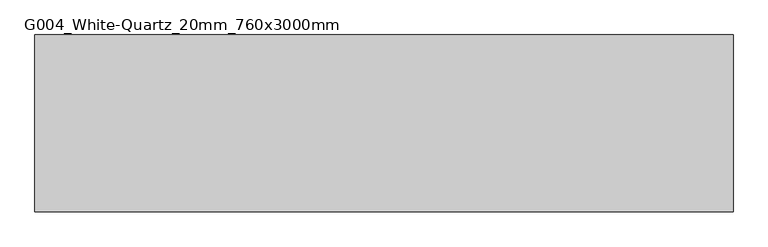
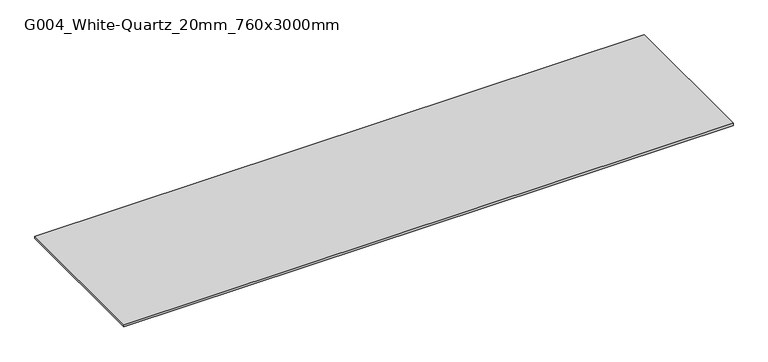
"""IFC4 building model written with IfcOpenShell, lengths in millimetres: proxy geometry, Kitchen_Counter-Tops_Indoor-Materials_HIMACS_Quartz : G004_White-Quartz_20mm_760x3000mm."""

import ifcopenshell
import ifcopenshell.guid

model = None  # the IFC model being written
_history = None  # IfcOwnerHistory: only IFC2X3 demands one
_inside = {}  # id of a spatial element -> (the spatial element, [elements in it])
_under = {}  # id of a project, library or spatial element -> (it, [spatial elements below it])
_declared = {}  # id of a project -> (the project, [libraries it declares])
_typed = {}  # id of a type object -> (the type object, [elements of that type])
_made_of = {}  # id of a material, layer set ... -> (it, [elements and type objects made of it])


def new_model(schema):
    """Start an empty IFC model of exactly this schema.

    Asked for "IFC4X3", IfcOpenShell would pick the latest addendum, in which some entities
    have other attributes; the version numbers below select the first issue.
    IFC2X3 requires an IfcOwnerHistory on every rooted entity: one is made here for all.
    """
    global model, _history
    if schema == "IFC4X3":
        model = ifcopenshell.file(schema_version=(4, 3, 0, 0))
    else:
        model = ifcopenshell.file(schema=schema)
    _inside.clear()
    _under.clear()
    _declared.clear()
    _typed.clear()
    _made_of.clear()
    _history = None
    if model.schema == "IFC2X3":
        org = make("IfcOrganization", Name="unknown")
        user = make(
            "IfcPersonAndOrganization",
            ThePerson=make("IfcPerson", FamilyName="unknown"),
            TheOrganization=org,
        )
        app = make(
            "IfcApplication",
            ApplicationDeveloper=org,
            Version="unknown",
            ApplicationFullName="unknown",
            ApplicationIdentifier="unknown",
        )
        _history = make(
            "IfcOwnerHistory",
            OwningUser=user,
            OwningApplication=app,
            ChangeAction="ADDED",
            CreationDate=0,
        )
    return model


def make(cls, **values):
    """One entity of the class cls with the attributes given. An attribute that is None is left unset."""
    return model.create_entity(
        cls, **{name: value for name, value in values.items() if value is not None}
    )


def rooted(cls, **values):
    """An entity with a GlobalId (a new one), such as an element, a storey or a relation."""
    return make(cls, GlobalId=ifcopenshell.guid.new(), OwnerHistory=_history, **values)


def si_unit(unit_type, name, prefix=None):
    """IfcSIUnit, for example si_unit("LENGTHUNIT", "METRE", prefix="MILLI")."""
    return make("IfcSIUnit", UnitType=unit_type, Prefix=prefix, Name=name)


def assignment(units):
    """IfcUnitAssignment: the units of a project."""
    return None if units is None else make("IfcUnitAssignment", Units=units)


def point(xyz):
    """IfcCartesianPoint."""
    return None if xyz is None else make("IfcCartesianPoint", Coordinates=xyz)


def direction(xyz):
    """IfcDirection."""
    return None if xyz is None else make("IfcDirection", DirectionRatios=xyz)


def frame(location, z_axis=None, x_axis=None):
    """IfcAxis2Placement3D, a coordinate frame: its origin and axes. An axis left out is left unset."""
    return make(
        "IfcAxis2Placement3D",
        Location=point(location),
        Axis=direction(z_axis),
        RefDirection=direction(x_axis),
    )


def origin():
    """The frame at (0, 0, 0) with its axes left unset."""
    return frame((0.0, 0.0, 0.0))


def origin_with_axes():
    """The frame at (0, 0, 0) with the z axis (0, 0, 1) and the x axis (1, 0, 0) written out."""
    return frame((0.0, 0.0, 0.0), z_axis=(0.0, 0.0, 1.0), x_axis=(1.0, 0.0, 0.0))


def place(relative_to, where):
    """IfcLocalPlacement: puts the frame where relative to a parent placement (None: the world)."""
    return make(
        "IfcLocalPlacement", PlacementRelTo=relative_to, RelativePlacement=where
    )


def context(
    kind, dimensions, precision=None, world=None, true_north=None, identifier=None
):
    """IfcGeometricRepresentationContext, for example the 3D "Model" context."""
    return make(
        "IfcGeometricRepresentationContext",
        ContextIdentifier=identifier,
        ContextType=kind,
        CoordinateSpaceDimension=dimensions,
        Precision=precision,
        WorldCoordinateSystem=world,
        TrueNorth=true_north,
    )


def project(units=None, contexts=None):
    """IfcProject with its units and contexts."""
    return rooted(
        "IfcProject",
        Name="project",
        RepresentationContexts=contexts,
        UnitsInContext=assignment(units),
    )


def spatial(cls, under=None, at=None, **own):
    """A site, building, storey or space (cls), placed at a placement, below another one or the project."""
    s = rooted(cls, ObjectPlacement=at, **own)
    if under is not None:
        _under.setdefault(under.id(), (under, []))[1].append(s)
    return s


def polyline(points):
    """IfcPolyline through the points."""
    return make("IfcPolyline", Points=[point(p) for p in points])


def outline(outer, holes=None, kind="AREA"):
    """IfcArbitraryClosedProfileDef: a profile drawn as a closed curve; with holes, ...WithVoids."""
    if holes is None:
        return make("IfcArbitraryClosedProfileDef", ProfileType=kind, OuterCurve=outer)
    return make(
        "IfcArbitraryProfileDefWithVoids",
        ProfileType=kind,
        OuterCurve=outer,
        InnerCurves=holes,
    )


def extrude(swept, where, along, depth):
    """IfcExtrudedAreaSolid: the profile swept, set in the frame where, extruded along a direction by depth."""
    return make(
        "IfcExtrudedAreaSolid",
        SweptArea=swept,
        Position=where,
        ExtrudedDirection=direction(along),
        Depth=depth,
    )


def shape(context_of_items, identifier, shape_type, items):
    """IfcShapeRepresentation: the items that make up one representation, for example the "Body"."""
    return make(
        "IfcShapeRepresentation",
        ContextOfItems=context_of_items,
        RepresentationIdentifier=identifier,
        RepresentationType=shape_type,
        Items=items,
    )


def source(mapping_origin, context_of_items, identifier, shape_type, items):
    """IfcRepresentationMap: a shape defined once, which mapped items show again and again."""
    return make(
        "IfcRepresentationMap",
        MappingOrigin=mapping_origin,
        MappedRepresentation=shape(context_of_items, identifier, shape_type, items),
    )


def transform(
    local_origin,
    x_axis=None,
    y_axis=None,
    z_axis=None,
    scale=None,
    scale2=None,
    scale3=None,
    uniform=True,
):
    """IfcCartesianTransformationOperator3D, or its non-uniform kind. x_axis, y_axis, z_axis: its Axis1, 2, 3."""
    if uniform:
        return make(
            "IfcCartesianTransformationOperator3D",
            Axis1=direction(x_axis),
            Axis2=direction(y_axis),
            LocalOrigin=point(local_origin),
            Scale=scale,
            Axis3=direction(z_axis),
        )
    return make(
        "IfcCartesianTransformationOperator3DnonUniform",
        Axis1=direction(x_axis),
        Axis2=direction(y_axis),
        LocalOrigin=point(local_origin),
        Scale=scale,
        Axis3=direction(z_axis),
        Scale2=scale2,
        Scale3=scale3,
    )


def mapped(mapping_source, mapping_target):
    """IfcMappedItem: shows the shape of a source again, moved by a transform."""
    return make(
        "IfcMappedItem", MappingSource=mapping_source, MappingTarget=mapping_target
    )


def made_of(thing, what):
    """Note that an element or type object is made of a material, layer set ...; save() writes the relation."""
    if what is not None:
        _made_of.setdefault(what.id(), (what, []))[1].append(thing)
    return thing


def element(
    cls,
    number,
    at=None,
    inside=None,
    cuts=None,
    type_object=None,
    material=None,
    context=None,
    identifier="Body",
    shape_type=None,
    held_by="IfcProductDefinitionShape",
    body=None,
    shapes=None,
    **own,
):
    """One element of the class cls, such as IfcWall. Its Tag is "e" and its number.

    at: its placement. inside: the storey or other place that contains it. cuts: it is an
    opening in that element (IfcRelVoidsElement). A single representation is given by context,
    identifier, shape_type and body (its items); several are given by shapes. held_by: the class
    of the entity that holds the representations. save() writes the other relations.
    """
    e = rooted(cls, Tag="e%d" % number, ObjectPlacement=at, **own)
    if body is not None:
        shapes = [shape(context, identifier, shape_type, body)]
    if shapes is not None:
        e.Representation = make(held_by, Representations=shapes)
    if inside is not None:
        _inside.setdefault(inside.id(), (inside, []))[1].append(e)
    if cuts is not None:
        rooted(
            "IfcRelVoidsElement", RelatingBuildingElement=cuts, RelatedOpeningElement=e
        )
    if type_object is not None:
        _typed.setdefault(type_object.id(), (type_object, []))[1].append(e)
    return made_of(e, material)


def aggregate(whole, parts):
    """IfcRelAggregates: a whole, such as a stair, and the parts it consists of."""
    return rooted("IfcRelAggregates", RelatingObject=whole, RelatedObjects=parts)


def save(model, path):
    """Write the relations noted so far, then the file.

    IfcRelAggregates (storeys below a building ...), IfcRelContainedInSpatialStructure (elements
    in a storey), IfcRelDefinesByType, IfcRelAssociatesMaterial and IfcRelDeclares: one each for
    every whole, place, type object, material and project.
    """
    for whole, parts in _under.values():
        aggregate(whole, parts)
    for where, things in _inside.values():
        rooted(
            "IfcRelContainedInSpatialStructure",
            RelatedElements=things,
            RelatingStructure=where,
        )
    for kind, things in _typed.values():
        rooted("IfcRelDefinesByType", RelatedObjects=things, RelatingType=kind)
    for what, things in _made_of.values():
        rooted("IfcRelAssociatesMaterial", RelatedObjects=things, RelatingMaterial=what)
    for by, libraries in _declared.values():
        rooted("IfcRelDeclares", RelatingContext=by, RelatedDefinitions=libraries)
    model.write(path)


def g004_white_quartz_20mm_760x3000mm_a6e596b7(model_context):
    return source(origin(), model_context, "Body", "SweptSolid", [
        extrude(outline(polyline([(1500.0, 380.0), (1500.0, -380.0), (-1500.0, -380.0), (-1500.0, 380.0), (1500.0, 380.0)])), origin_with_axes(), (0.0, 0.0, 1.0), 12.0),
    ])


if __name__ == "__main__":
    model = new_model("IFC4")
    model_context = context("Model", 3, world=origin())
    ifc_project = project(units=[si_unit("LENGTHUNIT", "METRE", prefix="MILLI")], contexts=[model_context])
    site = spatial("IfcSite", under=ifc_project)
    building = spatial("IfcBuilding", under=site)
    placement = place(None, origin())
    g004_white_quartz_20mm_760x3000mm_shape = g004_white_quartz_20mm_760x3000mm_a6e596b7(model_context)
    element("IfcBuildingElementProxy", 1, Name="Kitchen_Counter-Tops_Indoor-Materials_HIMACS_Quartz : G004_White-Quartz_20mm_760x3000mm", ObjectType="Kitchen_Counter-Tops_Indoor-Materials_HIMACS_Quartz : G004_White-Quartz_20mm_760x3000mm", at=placement, inside=building, context=model_context, shape_type="MappedRepresentation", body=[
        mapped(g004_white_quartz_20mm_760x3000mm_shape, transform((0.0, 0.0, 0.0), x_axis=(1.0, 0.0, 0.0), y_axis=(0.0, 1.0, 0.0), z_axis=(0.0, 0.0, 1.0))),
    ])
    save(model, "model.ifc")
